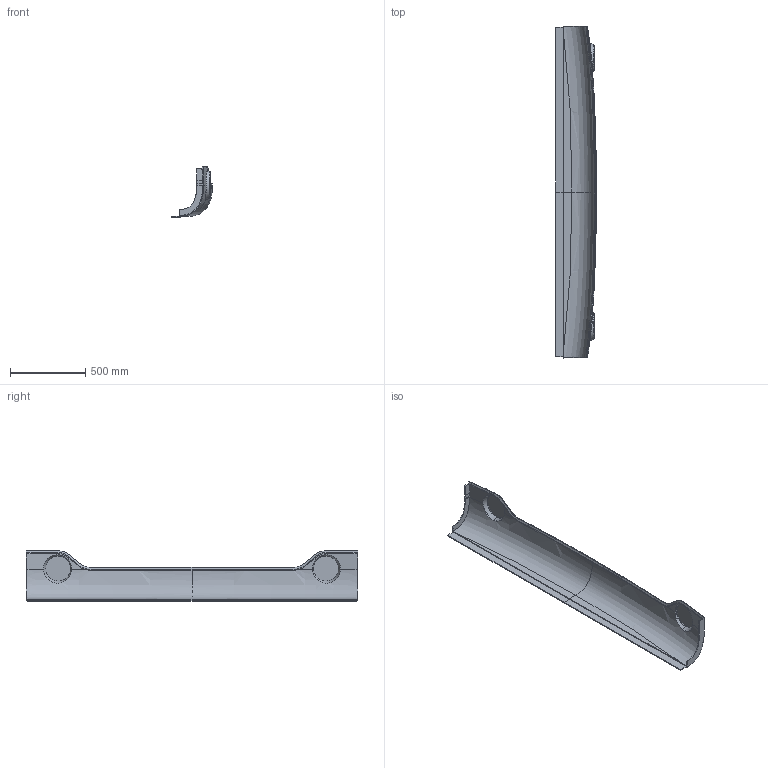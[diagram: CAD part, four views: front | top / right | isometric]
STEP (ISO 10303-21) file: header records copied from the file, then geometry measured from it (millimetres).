
FILE_DESCRIPTION(/* description */ (''),/* implementation_level */ '2;1');
FILE_NAME(/* name */ 'down_bumper_part_2',/* time_stamp */ '2018-02-20T19:11:01+01:00',/* author */ (''),/* organization */ (''),/* preprocessor_version */ 'ST-DEVELOPER v14',/* originating_system */ '',/* authorisation */ '');
FILE_SCHEMA (('CONFIG_CONTROL_DESIGN'));
Length unit declared in the file: millimetre
Products named in the file (1): Document
Bounding box: 271.95 x 2211.98 x 334.78 mm (x, y, z)
Surface area: 2025284.4 mm2 (no closed solid volume)
Topology: 0 solids, 1 shells, 74 faces, 203 edges, 125 vertices
Faces by surface type: bspline 56, plane 18
Entity records: 17404 total; most frequent: CARTESIAN_POINT 16125, ORIENTED_EDGE 386, EDGE_CURVE 203, B_SPLINE_CURVE_WITH_KNOTS 155, VERTEX_POINT 125, ADVANCED_FACE 74, FACE_OUTER_BOUND 74, EDGE_LOOP 74
